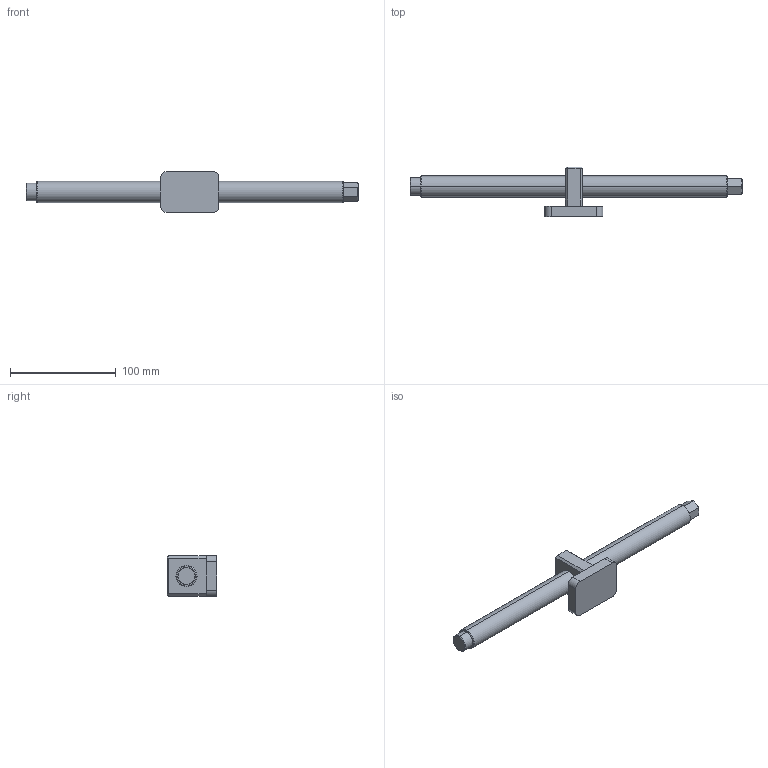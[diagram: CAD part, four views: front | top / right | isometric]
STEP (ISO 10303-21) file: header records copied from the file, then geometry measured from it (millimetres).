
FILE_DESCRIPTION (( 'STEP AP214' ), '1' );
FILE_NAME ('4825314.STEP', '2025-03-20T12:10:24', ( '' ), ( '' ), 'SwSTEP 2.0', 'SolidWorks 2021', '' );
FILE_SCHEMA (( 'AUTOMOTIVE_DESIGN' ));
Length unit declared in the file: millimetre
Products named in the file (1): 4825314
Bounding box: 314 x 46.85 x 39 mm (x, y, z)
Volume: 133812.7 mm3; surface area: 28381.4 mm2
Topology: 1 solids, 1 shells, 68 faces, 154 edges, 94 vertices
Faces by surface type: plane 52, cylinder 10, cone 6
Entity records: 2341 total; most frequent: DIRECTION 318, CARTESIAN_POINT 317, ORIENTED_EDGE 308, EDGE_CURVE 154, LINE 128, VECTOR 128, AXIS2_PLACEMENT_3D 95, VERTEX_POINT 94
